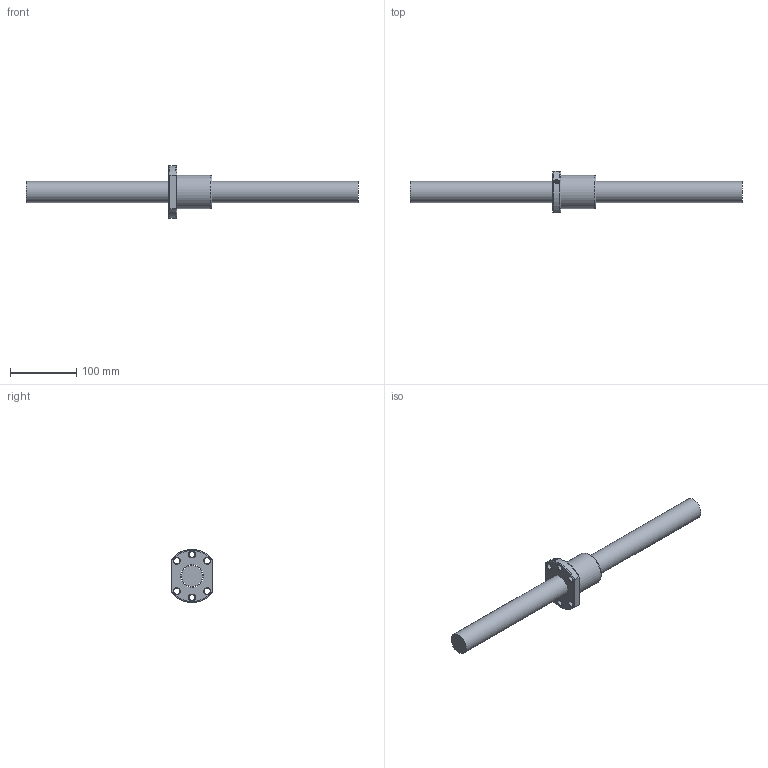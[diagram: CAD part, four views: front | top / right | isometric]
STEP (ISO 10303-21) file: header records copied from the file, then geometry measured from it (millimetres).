
FILE_DESCRIPTION (( 'STEP AP203' ), '1' );
FILE_NAME ('SFU03208D-4.step', '2024-05-14T07:05:00', ( '' ), ( '' ), 'SwSTEP 2.0', 'SolidWorks 2022', '' );
FILE_SCHEMA (( 'CONFIG_CONTROL_DESIGN' ));
Length unit declared in the file: millimetre
Products named in the file (1): SFU03208D-4
Bounding box: 500 x 62 x 79.74 mm (x, y, z)
Volume: 492541.6 mm3; surface area: 78196.6 mm2
Topology: 2 solids, 2 shells, 54 faces, 132 edges, 83 vertices
Faces by surface type: cylinder 19, cone 13, plane 12, bspline 5, torus 5
Full cylindrical faces by diameter (mm): 4 x1, 5 x6, 9 x6, 32 x1, 34.6 x1, 50 x1
Entity records: 3153 total; most frequent: CARTESIAN_POINT 2117, DIRECTION 186, ORIENTED_EDGE 166, EDGE_LOOP 90, AXIS2_PLACEMENT_3D 85, EDGE_CURVE 83, VERTEX_POINT 67, FACE_OUTER_BOUND 60
